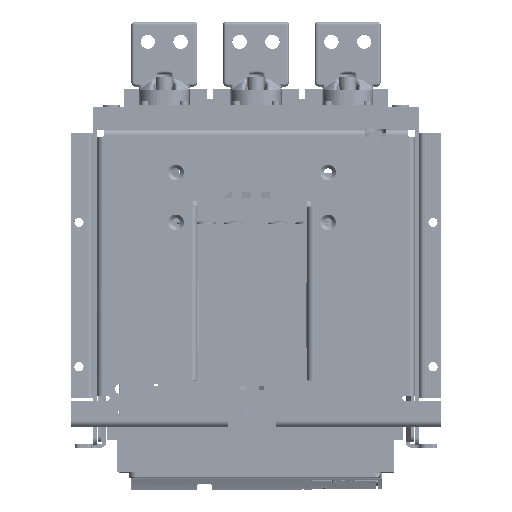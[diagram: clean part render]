
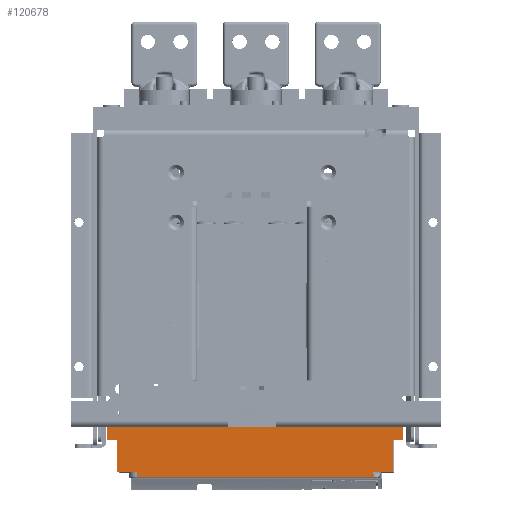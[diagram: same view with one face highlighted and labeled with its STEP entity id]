
A CAD part, top view. The second image highlights one B-rep face of the part: STEP entity #120678.
In plain terms, the highlighted planar face has unit normal (0, 0, 1) as drawn and (0, 1, 0) by its records, which use the part's own axes.
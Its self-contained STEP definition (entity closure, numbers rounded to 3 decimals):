
#3379=B_SPLINE_CURVE_WITH_KNOTS('',3,(#177536,#177537,#177538,#177539,#177540,
#177541),.UNSPECIFIED.,.F.,.F.,(4,1,1,4),(0.,0.333,0.667,
1.),.UNSPECIFIED.);
#7293=FACE_OUTER_BOUND('',#14019,.T.);
#14019=EDGE_LOOP('',(#81944,#81945,#81946,#81947,#81948,#81949,#81950,#81951,
#81952,#81953,#81954,#81955));
#26112=LINE('',#177528,#38691);
#26114=LINE('',#177534,#38693);
#26115=LINE('',#177543,#38694);
#26116=LINE('',#177545,#38695);
#26117=LINE('',#177547,#38696);
#26118=LINE('',#177549,#38697);
#26119=LINE('',#177551,#38698);
#26120=LINE('',#177553,#38699);
#26121=LINE('',#177555,#38700);
#26122=LINE('',#177556,#38701);
#26123=LINE('',#177557,#38702);
#38691=VECTOR('',#140950,14.75);
#38693=VECTOR('',#140956,181.028);
#38694=VECTOR('',#140957,14.721);
#38695=VECTOR('',#140958,24.);
#38696=VECTOR('',#140959,7.75);
#38697=VECTOR('',#140960,10.);
#38698=VECTOR('',#140961,225.5);
#38699=VECTOR('',#140962,10.);
#38700=VECTOR('',#140963,7.75);
#38701=VECTOR('',#140964,24.);
#38702=VECTOR('',#140965,4.);
#51292=VERTEX_POINT('',#177526);
#51293=VERTEX_POINT('',#177527);
#51294=VERTEX_POINT('',#177532);
#51295=VERTEX_POINT('',#177533);
#51296=VERTEX_POINT('',#177535);
#51297=VERTEX_POINT('',#177542);
#51298=VERTEX_POINT('',#177544);
#51299=VERTEX_POINT('',#177546);
#51300=VERTEX_POINT('',#177548);
#51301=VERTEX_POINT('',#177550);
#51302=VERTEX_POINT('',#177552);
#51303=VERTEX_POINT('',#177554);
#63274=EDGE_CURVE('',#51292,#51293,#26112,.T.);
#63277=EDGE_CURVE('',#51294,#51295,#26114,.T.);
#63278=EDGE_CURVE('',#51296,#51295,#3379,.T.);
#63279=EDGE_CURVE('',#51297,#51296,#26115,.T.);
#63280=EDGE_CURVE('',#51298,#51297,#26116,.T.);
#63281=EDGE_CURVE('',#51299,#51298,#26117,.T.);
#63282=EDGE_CURVE('',#51300,#51299,#26118,.T.);
#63283=EDGE_CURVE('',#51301,#51300,#26119,.T.);
#63284=EDGE_CURVE('',#51302,#51301,#26120,.T.);
#63285=EDGE_CURVE('',#51303,#51302,#26121,.T.);
#63286=EDGE_CURVE('',#51303,#51293,#26122,.T.);
#63287=EDGE_CURVE('',#51294,#51292,#26123,.T.);
#81944=ORIENTED_EDGE('',*,*,#63277,.T.);
#81945=ORIENTED_EDGE('',*,*,#63278,.F.);
#81946=ORIENTED_EDGE('',*,*,#63279,.F.);
#81947=ORIENTED_EDGE('',*,*,#63280,.F.);
#81948=ORIENTED_EDGE('',*,*,#63281,.F.);
#81949=ORIENTED_EDGE('',*,*,#63282,.F.);
#81950=ORIENTED_EDGE('',*,*,#63283,.F.);
#81951=ORIENTED_EDGE('',*,*,#63284,.F.);
#81952=ORIENTED_EDGE('',*,*,#63285,.F.);
#81953=ORIENTED_EDGE('',*,*,#63286,.T.);
#81954=ORIENTED_EDGE('',*,*,#63274,.F.);
#81955=ORIENTED_EDGE('',*,*,#63287,.F.);
#116391=PLANE('',#128479);
#120678=ADVANCED_FACE('',(#7293),#116391,.T.);
#128479=AXIS2_PLACEMENT_3D('',#177531,#140954,#140955);
#140950=DIRECTION('',(1.,0.,0.));
#140954=DIRECTION('center_axis',(0.,1.,0.));
#140955=DIRECTION('ref_axis',(1.,0.,0.));
#140956=DIRECTION('',(-1.,0.,0.));
#140957=DIRECTION('',(1.,0.,0.));
#140958=DIRECTION('',(0.,0.,-1.));
#140959=DIRECTION('',(1.,0.,0.));
#140960=DIRECTION('',(0.,0.,-1.));
#140961=DIRECTION('',(-1.,0.,0.));
#140962=DIRECTION('',(0.,0.,1.));
#140963=DIRECTION('',(1.,0.,0.));
#140964=DIRECTION('',(0.,0.,-1.));
#140965=DIRECTION('',(0.,0.,1.));
#177526=CARTESIAN_POINT('',(88.,34.,-34.));
#177527=CARTESIAN_POINT('',(102.75,34.,-34.));
#177528=CARTESIAN_POINT('',(88.,34.,-34.));
#177531=CARTESIAN_POINT('Origin',(0.,34.,0.));
#177532=CARTESIAN_POINT('',(88.,34.,-38.));
#177533=CARTESIAN_POINT('',(-93.028,34.,-38.));
#177534=CARTESIAN_POINT('',(88.,34.,-38.));
#177535=CARTESIAN_POINT('',(-92.529,34.,-34.));
#177536=CARTESIAN_POINT('Ctrl Pts',(-92.529,34.,-34.));
#177537=CARTESIAN_POINT('Ctrl Pts',(-92.496,34.,-34.41));
#177538=CARTESIAN_POINT('Ctrl Pts',(-92.485,34.,-35.252));
#177539=CARTESIAN_POINT('Ctrl Pts',(-92.645,34.,-36.597));
#177540=CARTESIAN_POINT('Ctrl Pts',(-92.877,34.,-37.526));
#177541=CARTESIAN_POINT('Ctrl Pts',(-93.028,34.,-38.));
#177542=CARTESIAN_POINT('',(-107.25,34.,-34.));
#177543=CARTESIAN_POINT('',(-107.25,34.,-34.));
#177544=CARTESIAN_POINT('',(-107.25,34.,-10.));
#177545=CARTESIAN_POINT('',(-107.25,34.,-10.));
#177546=CARTESIAN_POINT('',(-115.,34.,-10.));
#177547=CARTESIAN_POINT('',(-115.,34.,-10.));
#177548=CARTESIAN_POINT('',(-115.,34.,0.));
#177549=CARTESIAN_POINT('',(-115.,34.,0.));
#177550=CARTESIAN_POINT('',(110.5,34.,0.));
#177551=CARTESIAN_POINT('',(110.5,34.,0.));
#177552=CARTESIAN_POINT('',(110.5,34.,-10.));
#177553=CARTESIAN_POINT('',(110.5,34.,-10.));
#177554=CARTESIAN_POINT('',(102.75,34.,-10.));
#177555=CARTESIAN_POINT('',(102.75,34.,-10.));
#177556=CARTESIAN_POINT('',(102.75,34.,-10.));
#177557=CARTESIAN_POINT('',(88.,34.,-38.));
